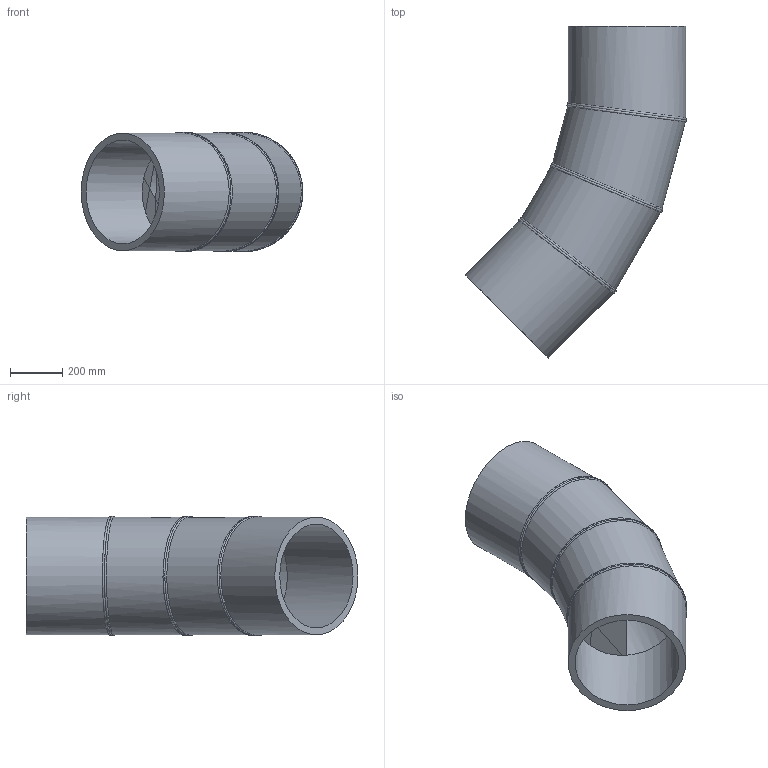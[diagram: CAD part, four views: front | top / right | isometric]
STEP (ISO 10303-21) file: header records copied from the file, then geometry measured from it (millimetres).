
FILE_DESCRIPTION(/* description */ ('Unknown'),/* implementation_level */ '2;1');
FILE_NAME(/* name */ 'Curva 45° a settore DE450 SDR17',/* time_stamp */ '2022-07-26T09:45:22+02:00',/* author */ ('Unknown'),/* organization */ ('Unknown'),/* preprocessor_version */ 'ST-DEVELOPER v18.102',/* originating_system */ 'Solid Edge',/* authorisation */ 'Unknown');
FILE_SCHEMA (('AUTOMOTIVE_DESIGN {1 0 10303 214 3 1 1}'));
Length unit declared in the file: millimetre
Products named in the file (3): Curva 45° a settore DE450 SDR17; Tubo x Gomito 45° DE450 SDR17 - 1; Tubo x Gomito 45° DE450 SDR17 - 2
Assembly tree (4 placements, depth 2):
  Curva 45° a settore DE450 SDR17
    Tubo x Gomito 45° DE450 SDR17 - 1  x2
    Tubo x Gomito 45° DE450 SDR17 - 2  x2
Bounding box: 848.24 x 1270 x 457.99 mm (x, y, z)
Volume: 44880028.1 mm3; surface area: 3671218.5 mm2
Topology: 4 solids, 4 shells, 34 faces, 74 edges, 48 vertices
Faces by surface type: cylinder 20, plane 8, bspline 6
Full cylindrical faces by diameter (mm): 396.6 x4, 450 x4
Entity records: 2414 total; most frequent: CARTESIAN_POINT 2012, DIRECTION 72, ORIENTED_EDGE 52, AXIS2_PLACEMENT_3D 36, EDGE_LOOP 28, FACE_BOUND 28, EDGE_CURVE 26, VERTEX_POINT 20
